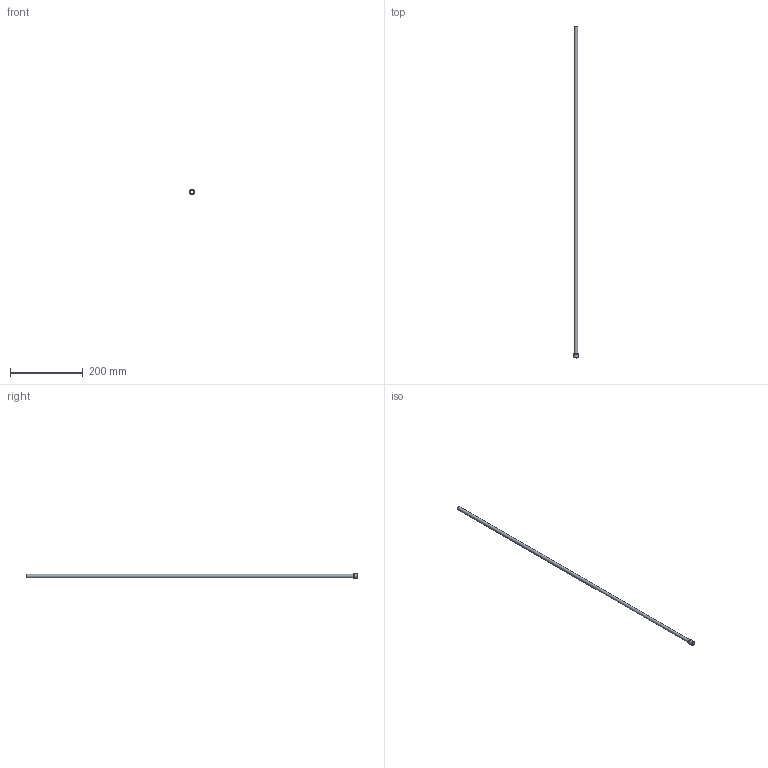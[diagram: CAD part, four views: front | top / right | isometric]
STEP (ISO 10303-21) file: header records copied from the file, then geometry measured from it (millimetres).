
FILE_DESCRIPTION(/* description */ (''),/* implementation_level */ '2;1');
FILE_NAME(/* name */ 'C:/Users/drich/Desktop/JHF375T-36 v1.step',/* time_stamp */ '2020-01-02T20:07:24-06:00',/* author */ (''),/* organization */ (''),/* preprocessor_version */ 'ST-DEVELOPER v18',/* originating_system */ 'Autodesk Translation Framework v8.12.0.6',/* authorisation */ '');
FILE_SCHEMA (('AUTOMOTIVE_DESIGN { 1 0 10303 214 3 1 1 }'));
Length unit declared in the file: inch
Products named in the file (1): JHF375T-36
Bounding box: 12.75 x 914.4 x 12.75 mm (x, y, z)
Volume: 8893.6 mm3; surface area: 51697.6 mm2
Topology: 1 solids, 1 shells, 10 faces, 24 edges, 18 vertices
Faces by surface type: cylinder 4, plane 4, cone 1, torus 1
Full cylindrical faces by diameter (mm): 8.636 x1, 9.271 x1, 12.598 x1, 12.751 x1
Entity records: 354 total; most frequent: DIRECTION 65, CARTESIAN_POINT 53, ORIENTED_EDGE 48, AXIS2_PLACEMENT_3D 30, EDGE_CURVE 24, CIRCLE 19, VERTEX_POINT 18, EDGE_LOOP 14
